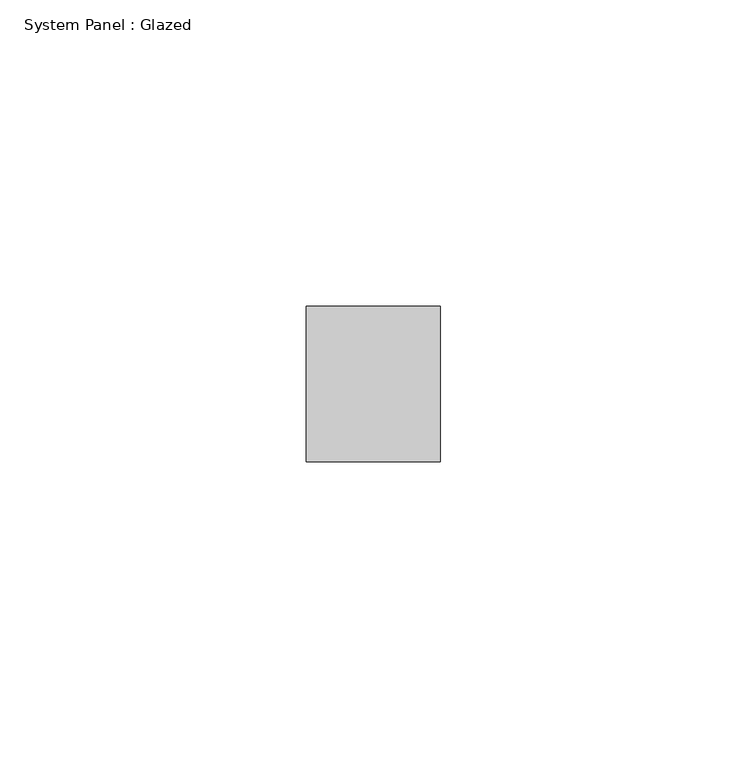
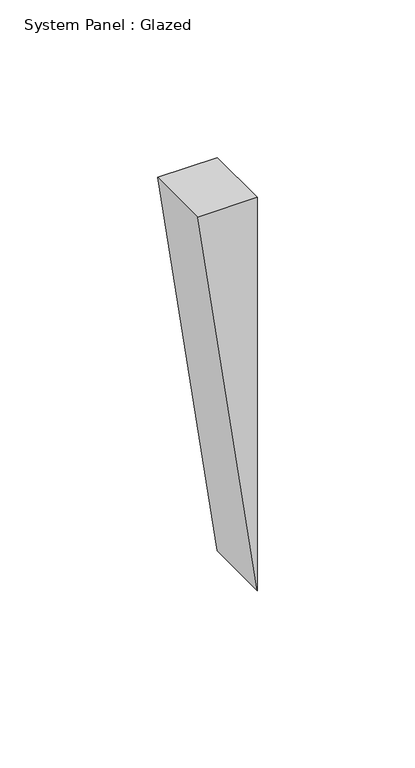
"""IFC4 building model written with IfcOpenShell, lengths in millimetres: plate geometry, System Panel : Glazed."""

from ifc_helpers import new_model, si_unit, frame, origin, place, context, project, spatial, polyline, outline, extrude, source, transform, mapped, element, save


def system_panel_glazed_3a0fa78c(model_context):
    return source(origin(), model_context, "Body", "SweptSolid", [
        extrude(outline(polyline([(152.4000021, -10.9640289), (0.0, 10.9640289), (152.4000021, 10.9640289), (152.4000021, -10.9640289)])), frame((0.0, 19.05, 0.0), z_axis=(0.0, 1.0, 0.0), x_axis=(0.0, 0.0, 1.0)), (0.0, 0.0, 1.0), 25.4),
    ])


if __name__ == "__main__":
    model = new_model("IFC4")
    model_context = context("Model", 3, world=origin())
    ifc_project = project(units=[si_unit("LENGTHUNIT", "METRE", prefix="MILLI")], contexts=[model_context])
    site = spatial("IfcSite", under=ifc_project)
    building = spatial("IfcBuilding", under=site)
    placement = place(None, origin())
    system_panel_glazed_shape = system_panel_glazed_3a0fa78c(model_context)
    element("IfcPlate", 1, ObjectType="System Panel : Glazed", at=placement, inside=building, context=model_context, shape_type="MappedRepresentation", body=[
        mapped(system_panel_glazed_shape, transform((0.0, 0.0, 0.0), x_axis=(1.0, 0.0, 0.0), y_axis=(0.0, 1.0, 0.0), z_axis=(0.0, 0.0, 1.0))),
    ])
    save(model, "model.ifc")
